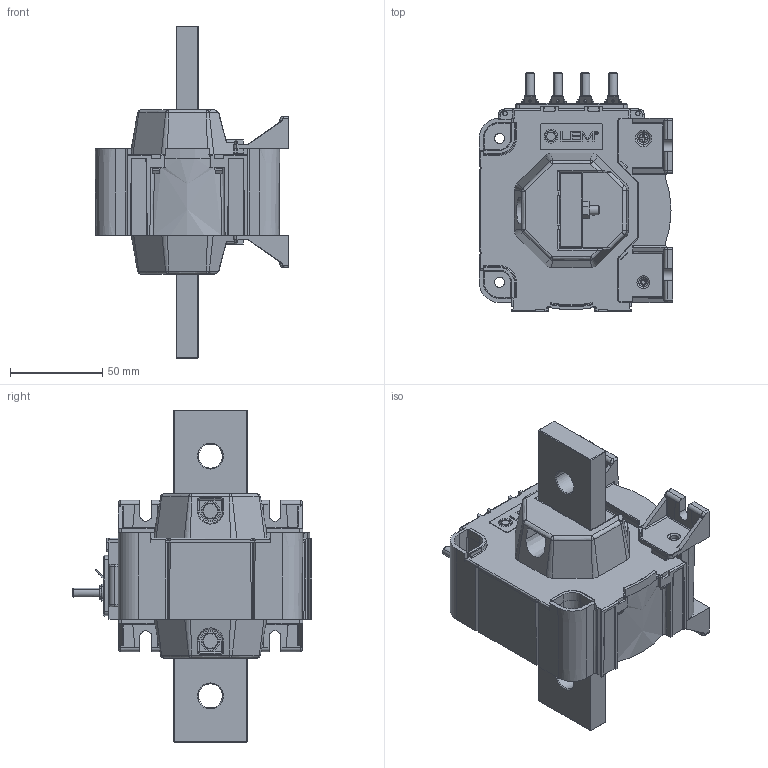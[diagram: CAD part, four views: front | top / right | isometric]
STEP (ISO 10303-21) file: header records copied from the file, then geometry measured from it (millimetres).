
FILE_DESCRIPTION(('Creo Elements/Direct Modeling STEP Export'),'2;1');
FILE_NAME('90.B2.52.018.0_20170622.stp','2017-06-22T11:24:10',(''),(''),'PTC Creo Elements/Direct Modeling STEP processor for AP214 (Solid Model)','PTC Creo Elements/Direct Modeling 19.0B 21-Mar-2015 (C) Parametric Technology GmbH','');
FILE_SCHEMA(('AUTOMOTIVE_DESIGN { 1 0 10303 214 1 1 1 1 }'));
Products named in the file (2): LTC_600_TP_SP18
Assembly tree (1 placements, depth 2):
  LTC_600_TP_SP18
    LTC_600_TP_SP18
Bounding box: 105.09 x 130 x 180 mm (x, y, z)
Surface area: 138086.9 mm2 (no closed solid volume)
Topology: 0 solids, 11 shells, 3808 faces, 10113 edges, 6227 vertices
Faces by surface type: plane 1566, cylinder 855, bspline 737, cone 253, extrusion 229, torus 144, sphere 24
Entity records: 209508 total; most frequent: CARTESIAN_POINT 117024, ORIENTED_EDGE 20014, DIRECTION 13337, EDGE_CURVE 10007, VERTEX_POINT 6227, VECTOR 4983, LINE 4758, AXIS2_PLACEMENT_3D 4177
